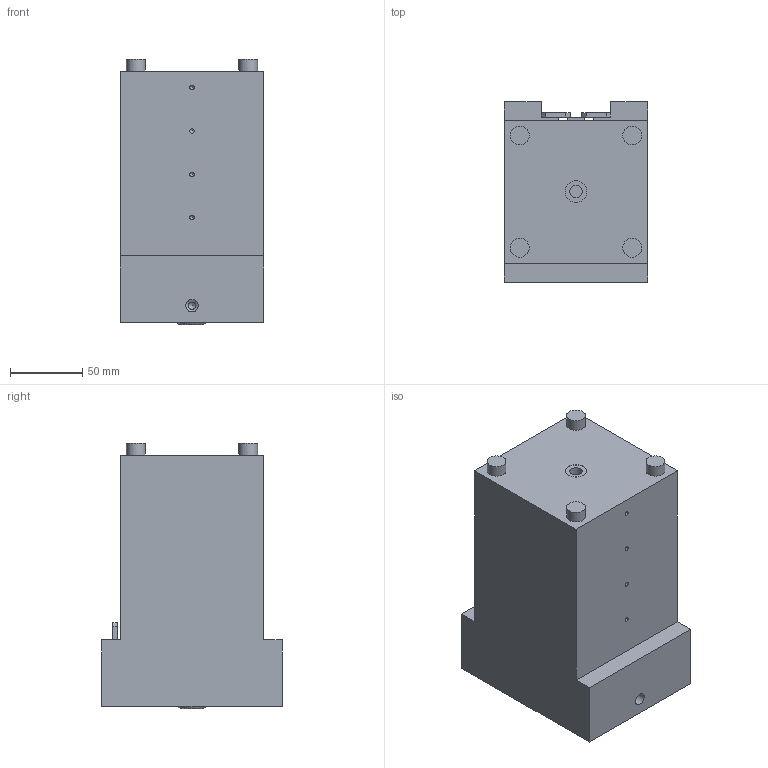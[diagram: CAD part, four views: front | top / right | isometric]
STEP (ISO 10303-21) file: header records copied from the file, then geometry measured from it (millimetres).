
FILE_DESCRIPTION((''),'2;1');
FILE_NAME('C:\VaultWork\Zeichnungen\Maßblätter\Multispannzylinder\M90-12\MZ01489-3-0 Maßblatt Multizylinder M90-5-12 berührungslose Abfrage.stp','2010-01-04T14:58:25',('Test'),(''),'Autodesk Inventor 2008','Autodesk Inventor 2008','');
FILE_SCHEMA(('AUTOMOTIVE_DESIGN { 1 0 10303 214 1 1 1 1 }'));
Length unit declared in the file: millimetre
Products named in the file (1): MZ01489-3-0 Maßblatt Multizylinder M90-5-12 berührungslose Abfrage
Bounding box: 99 x 125 x 183.5 mm (x, y, z)
Volume: 1763082.5 mm3; surface area: 120416 mm2
Topology: 1 solids, 5 shells, 118 faces, 294 edges, 198 vertices
Faces by surface type: plane 73, bspline 37, cylinder 8
Full cylindrical faces by diameter (mm): 13 x4
Entity records: 3646 total; most frequent: CARTESIAN_POINT 1127, DIRECTION 452, ORIENTED_EDGE 440, EDGE_CURVE 220, EDGE_LOOP 178, VERTEX_POINT 164, VECTOR 152, LINE 152
